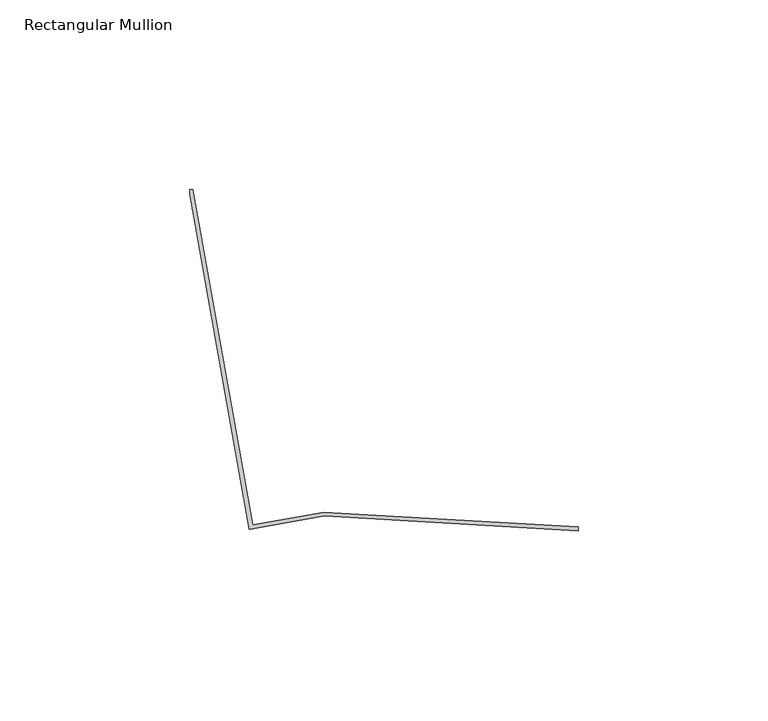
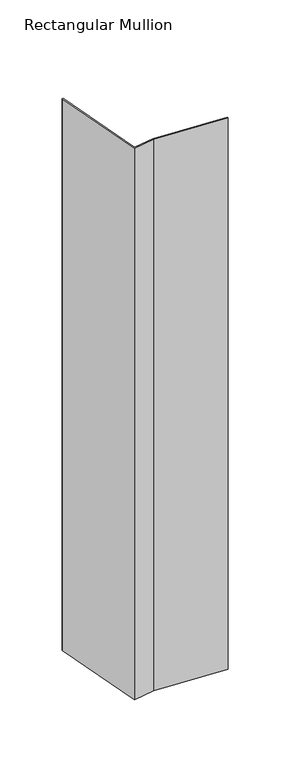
"""IFC4 building model written with IfcOpenShell, lengths in millimetres: member geometry, Rectangular Mullion : CD_NINELINE_Box Start."""

from ifc_helpers import new_model, si_unit, frame, origin, place, context, project, spatial, polyline, outline, extrude, source, transform, mapped, element, save


def rectangular_mullion_04fd0460(model_context):
    return source(origin(), model_context, "Body", "SweptSolid", [
        extrude(outline(polyline([(-102.3753074, -0.9999629), (-102.3753074, 3.78e-05), (-101.5373726, 3.78e-05), (-85.8253425, -88.4000947), (-67.0220447, -85.0580411), (0.0, -88.9992721), (-0.0587036, -89.9975475), (-66.9630913, -86.0632353), (-86.6349168, -89.559659), (-102.3753074, -0.9999629)])), frame((0.0, 0.0, -542.0), z_axis=(0.0, 0.0, 1.0), x_axis=(1.0, 0.0, 0.0)), (0.0, 0.0, 1.0), 542.0),
    ])


if __name__ == "__main__":
    model = new_model("IFC4")
    model_context = context("Model", 3, world=origin())
    ifc_project = project(units=[si_unit("LENGTHUNIT", "METRE", prefix="MILLI")], contexts=[model_context])
    site = spatial("IfcSite", under=ifc_project)
    building = spatial("IfcBuilding", under=site)
    placement = place(None, origin())
    rectangular_mullion_shape = rectangular_mullion_04fd0460(model_context)
    element("IfcMember", 1, ObjectType="Rectangular Mullion : CD_NINELINE_Box Start", at=placement, inside=building, context=model_context, shape_type="MappedRepresentation", body=[
        mapped(rectangular_mullion_shape, transform((0.0, 0.0, 0.0), x_axis=(1.0, 0.0, 0.0), y_axis=(0.0, 1.0, 0.0), z_axis=(0.0, 0.0, 1.0))),
    ])
    save(model, "model.ifc")
